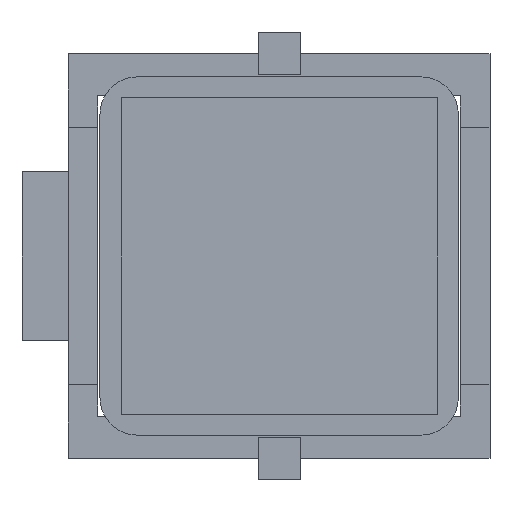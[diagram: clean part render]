
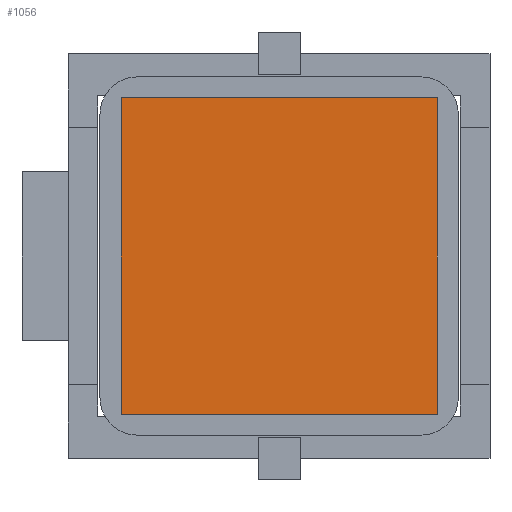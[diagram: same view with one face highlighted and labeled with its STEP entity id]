
A CAD part, front view. The second image highlights one B-rep face of the part: STEP entity #1056.
In plain terms, the highlighted planar face has unit normal (0, -1, 0).
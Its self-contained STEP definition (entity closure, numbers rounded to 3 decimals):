
#97 = DIRECTION ( 'NONE',  ( 0., 0., -1. ) ) ;
#121 = CARTESIAN_POINT ( 'NONE',  ( -3.413, -13.936, -0.275 ) ) ;
#630 = LINE ( 'NONE', #1351, #3668 ) ;
#688 = DIRECTION ( 'NONE',  ( 0., 0., 1. ) ) ;
#708 = EDGE_CURVE ( 'NONE', #2539, #3529, #2414, .T. ) ;
#715 = DIRECTION ( 'NONE',  ( -1., 0., 0. ) ) ;
#776 = VERTEX_POINT ( 'NONE', #4543 ) ;
#930 = EDGE_CURVE ( 'NONE', #3529, #776, #4139, .T. ) ;
#1056 = ADVANCED_FACE ( 'NONE', ( #1882 ), #3548, .F. ) ;
#1070 = CARTESIAN_POINT ( 'NONE',  ( -3.413, -13.936, -0.275 ) ) ;
#1117 = VECTOR ( 'NONE', #97, 1000. ) ;
#1199 = VECTOR ( 'NONE', #715, 1000. ) ;
#1278 = EDGE_CURVE ( 'NONE', #2311, #2539, #3220, .T. ) ;
#1351 = CARTESIAN_POINT ( 'NONE',  ( -3.413, -13.936, 14.725 ) ) ;
#1375 = DIRECTION ( 'NONE',  ( 1., 0., 0. ) ) ;
#1736 = ORIENTED_EDGE ( 'NONE', *, *, #1278, .F. ) ;
#1882 = FACE_OUTER_BOUND ( 'NONE', #1948, .T. ) ;
#1948 = EDGE_LOOP ( 'NONE', ( #3452, #3109, #1736, #2908 ) ) ;
#2311 = VERTEX_POINT ( 'NONE', #2520 ) ;
#2414 = LINE ( 'NONE', #1070, #1199 ) ;
#2421 = CARTESIAN_POINT ( 'NONE',  ( 11.587, -13.936, -0.275 ) ) ;
#2505 = CARTESIAN_POINT ( 'NONE',  ( 11.587, -13.936, -0.275 ) ) ;
#2520 = CARTESIAN_POINT ( 'NONE',  ( 11.587, -13.936, 14.725 ) ) ;
#2530 = DIRECTION ( 'NONE',  ( 0., 1., 0. ) ) ;
#2539 = VERTEX_POINT ( 'NONE', #2421 ) ;
#2786 = CARTESIAN_POINT ( 'NONE',  ( -3.413, -13.936, -0.275 ) ) ;
#2908 = ORIENTED_EDGE ( 'NONE', *, *, #4021, .F. ) ;
#3109 = ORIENTED_EDGE ( 'NONE', *, *, #708, .F. ) ;
#3220 = LINE ( 'NONE', #2505, #1117 ) ;
#3452 = ORIENTED_EDGE ( 'NONE', *, *, #930, .F. ) ;
#3529 = VERTEX_POINT ( 'NONE', #121 ) ;
#3548 = PLANE ( 'NONE',  #4209 ) ;
#3668 = VECTOR ( 'NONE', #1375, 1000. ) ;
#3777 = VECTOR ( 'NONE', #688, 1000. ) ;
#3906 = CARTESIAN_POINT ( 'NONE',  ( -3.413, -13.936, 14.725 ) ) ;
#3953 = DIRECTION ( 'NONE',  ( 0., 0., 1. ) ) ;
#4021 = EDGE_CURVE ( 'NONE', #776, #2311, #630, .T. ) ;
#4139 = LINE ( 'NONE', #2786, #3777 ) ;
#4209 = AXIS2_PLACEMENT_3D ( 'NONE', #3906, #2530, #3953 ) ;
#4543 = CARTESIAN_POINT ( 'NONE',  ( -3.413, -13.936, 14.725 ) ) ;
